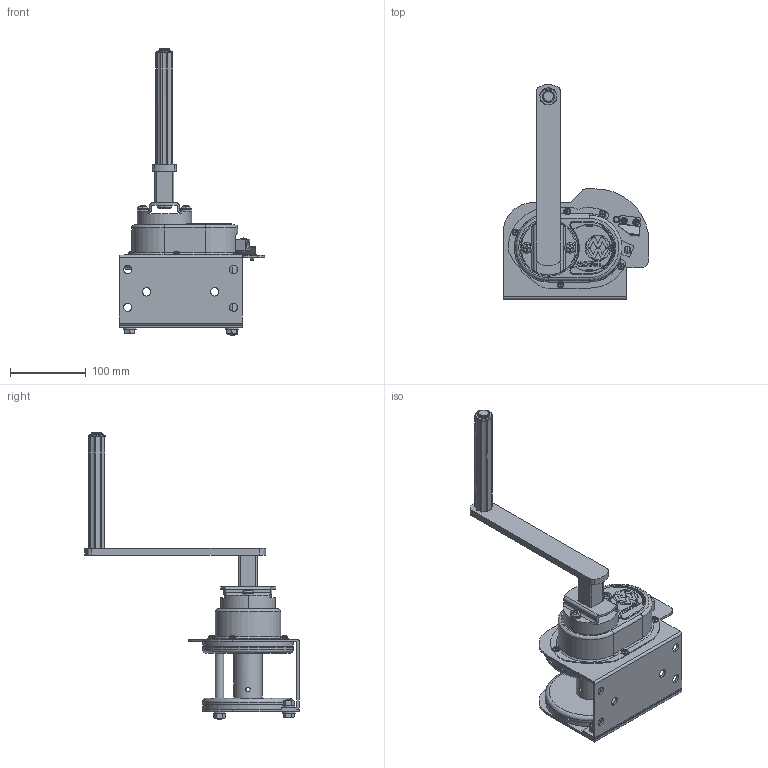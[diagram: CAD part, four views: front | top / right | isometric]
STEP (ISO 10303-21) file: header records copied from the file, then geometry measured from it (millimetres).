
FILE_DESCRIPTION( (''), '2;1');
FILE_NAME ('GM-1LH-SW.stp','2024-01-09T09:41:20',(''),(''),'spGate 19.8.2 (****-****-****-****)','','');
FILE_SCHEMA (('AUTOMOTIVE_DESIGN'));
Length unit declared in the file: millimetre
Products named in the file (3): Assembly; GM-1LH-SW-prt0; GM-1LH-SW-prt1
Assembly tree (2 placements, depth 2):
  Assembly
    GM-1LH-SW-prt0
    GM-1LH-SW-prt1
Bounding box: 193 x 283.92 x 379.1 mm (x, y, z)
Volume: 822973.7 mm3; surface area: 324298.1 mm2
Topology: 2 solids, 2 shells, 1530 faces, 4031 edges, 2615 vertices
Faces by surface type: plane 853, cylinder 522, bspline 135, sphere 20
Entity records: 82010 total; most frequent: CARTESIAN_POINT 12626, ORIENTED_EDGE 8050, DIRECTION 7587, COLOUR_RGB 5557, PRESENTATION_STYLE_ASSIGNMENT 5557, STYLED_ITEM 5557, EDGE_CURVE 4025, DRAUGHTING_PRE_DEFINED_CURVE_FONT 4025
